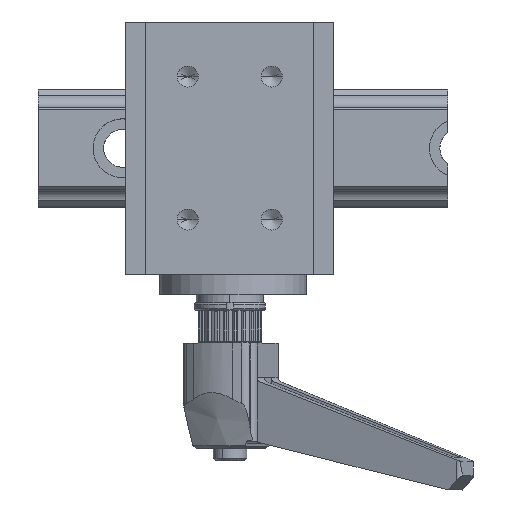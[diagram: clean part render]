
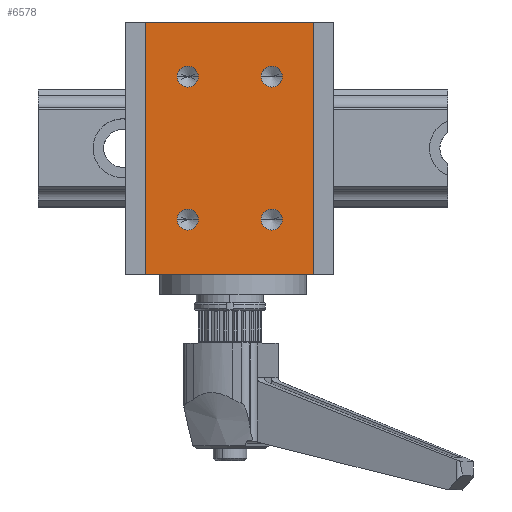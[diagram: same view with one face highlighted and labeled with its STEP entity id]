
A CAD part, top view. The second image highlights one B-rep face of the part: STEP entity #6578.
In plain terms, the highlighted planar face has unit normal (0, 0, 1) as drawn and (0, 1, 0) by its records, which use the part's own axes.
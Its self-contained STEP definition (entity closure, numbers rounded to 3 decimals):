
#25 = FACE_BOUND ( 'NONE', #4048, .T. ) ;
#52 = ORIENTED_EDGE ( 'NONE', *, *, #1226, .F. ) ;
#85 = AXIS2_PLACEMENT_3D ( 'NONE', #9742, #7509, #2824 ) ;
#144 = EDGE_CURVE ( 'NONE', #1429, #9747, #8962, .T. ) ;
#180 = EDGE_CURVE ( 'NONE', #5437, #8937, #9557, .T. ) ;
#307 = AXIS2_PLACEMENT_3D ( 'NONE', #6190, #2407, #6236 ) ;
#381 = CARTESIAN_POINT ( 'NONE',  ( 30., 0., -20. ) ) ;
#418 = CARTESIAN_POINT ( 'NONE',  ( -30., 0., -20. ) ) ;
#566 = CARTESIAN_POINT ( 'NONE',  ( -17., 0., -10. ) ) ;
#843 = FACE_BOUND ( 'NONE', #1031, .T. ) ;
#889 = EDGE_CURVE ( 'NONE', #5147, #4660, #6104, .T. ) ;
#929 = AXIS2_PLACEMENT_3D ( 'NONE', #5813, #5015, #5865 ) ;
#981 = ORIENTED_EDGE ( 'NONE', *, *, #2449, .F. ) ;
#1031 = EDGE_LOOP ( 'NONE', ( #4712, #7693 ) ) ;
#1226 = EDGE_CURVE ( 'NONE', #5450, #9669, #9828, .T. ) ;
#1429 = VERTEX_POINT ( 'NONE', #9934 ) ;
#1445 = ORIENTED_EDGE ( 'NONE', *, *, #1643, .F. ) ;
#1562 = DIRECTION ( 'NONE',  ( 0., 1., 0. ) ) ;
#1590 = CARTESIAN_POINT ( 'NONE',  ( -30., 0., 20. ) ) ;
#1643 = EDGE_CURVE ( 'NONE', #9669, #5450, #3037, .T. ) ;
#1956 = CIRCLE ( 'NONE', #3268, 2.5 ) ;
#2090 = CARTESIAN_POINT ( 'NONE',  ( -17., 0., 10. ) ) ;
#2304 = EDGE_LOOP ( 'NONE', ( #981, #6085 ) ) ;
#2305 = PLANE ( 'NONE',  #5095 ) ;
#2407 = DIRECTION ( 'NONE',  ( 0., 1., 0. ) ) ;
#2449 = EDGE_CURVE ( 'NONE', #8498, #7726, #1956, .T. ) ;
#2456 = DIRECTION ( 'NONE',  ( 0., 0., -1. ) ) ;
#2621 = LINE ( 'NONE', #5696, #5410 ) ;
#2637 = DIRECTION ( 'NONE',  ( 0., 0., -1. ) ) ;
#2658 = LINE ( 'NONE', #418, #6391 ) ;
#2824 = DIRECTION ( 'NONE',  ( 0., 0., 1. ) ) ;
#3037 = CIRCLE ( 'NONE', #929, 2.5 ) ;
#3149 = EDGE_LOOP ( 'NONE', ( #3972, #7245 ) ) ;
#3268 = AXIS2_PLACEMENT_3D ( 'NONE', #5691, #5788, #4987 ) ;
#3371 = CARTESIAN_POINT ( 'NONE',  ( 30., 0., 20. ) ) ;
#3414 = CARTESIAN_POINT ( 'NONE',  ( -17., 0., 12.5 ) ) ;
#3441 = ORIENTED_EDGE ( 'NONE', *, *, #180, .T. ) ;
#3494 = AXIS2_PLACEMENT_3D ( 'NONE', #566, #6724, #5924 ) ;
#3649 = AXIS2_PLACEMENT_3D ( 'NONE', #4249, #4811, #9400 ) ;
#3759 = VERTEX_POINT ( 'NONE', #9020 ) ;
#3829 = DIRECTION ( 'NONE',  ( 0., -1., 0. ) ) ;
#3930 = FACE_OUTER_BOUND ( 'NONE', #7648, .T. ) ;
#3935 = AXIS2_PLACEMENT_3D ( 'NONE', #6811, #1562, #5457 ) ;
#3972 = ORIENTED_EDGE ( 'NONE', *, *, #4288, .F. ) ;
#4048 = EDGE_LOOP ( 'NONE', ( #52, #1445 ) ) ;
#4116 = VECTOR ( 'NONE', #2637, 1000. ) ;
#4141 = DIRECTION ( 'NONE',  ( 0., 0., -1. ) ) ;
#4172 = EDGE_CURVE ( 'NONE', #8937, #3759, #2658, .T. ) ;
#4249 = CARTESIAN_POINT ( 'NONE',  ( -17., 0., -10. ) ) ;
#4288 = EDGE_CURVE ( 'NONE', #9747, #1429, #7850, .T. ) ;
#4660 = VERTEX_POINT ( 'NONE', #8884 ) ;
#4665 = AXIS2_PLACEMENT_3D ( 'NONE', #2090, #8907, #5174 ) ;
#4712 = ORIENTED_EDGE ( 'NONE', *, *, #4857, .F. ) ;
#4811 = DIRECTION ( 'NONE',  ( 0., 1., 0. ) ) ;
#4857 = EDGE_CURVE ( 'NONE', #4660, #5147, #7498, .T. ) ;
#4862 = CARTESIAN_POINT ( 'NONE',  ( 30., 0., 20. ) ) ;
#4898 = ORIENTED_EDGE ( 'NONE', *, *, #4172, .T. ) ;
#4900 = CIRCLE ( 'NONE', #3935, 2.5 ) ;
#4987 = DIRECTION ( 'NONE',  ( 0., 0., 1. ) ) ;
#5015 = DIRECTION ( 'NONE',  ( 0., 1., 0. ) ) ;
#5045 = CARTESIAN_POINT ( 'NONE',  ( -17., 0., -7.5 ) ) ;
#5095 = AXIS2_PLACEMENT_3D ( 'NONE', #7760, #3829, #2456 ) ;
#5102 = EDGE_CURVE ( 'NONE', #6166, #3759, #2621, .T. ) ;
#5147 = VERTEX_POINT ( 'NONE', #7916 ) ;
#5174 = DIRECTION ( 'NONE',  ( 0., 0., 1. ) ) ;
#5389 = FACE_BOUND ( 'NONE', #3149, .T. ) ;
#5410 = VECTOR ( 'NONE', #4141, 1000. ) ;
#5437 = VERTEX_POINT ( 'NONE', #3371 ) ;
#5450 = VERTEX_POINT ( 'NONE', #3414 ) ;
#5457 = DIRECTION ( 'NONE',  ( 0., 0., 1. ) ) ;
#5525 = DIRECTION ( 'NONE',  ( -1., 0., 0. ) ) ;
#5691 = CARTESIAN_POINT ( 'NONE',  ( 17., 0., 10. ) ) ;
#5696 = CARTESIAN_POINT ( 'NONE',  ( -30., 0., 20. ) ) ;
#5788 = DIRECTION ( 'NONE',  ( 0., 1., 0. ) ) ;
#5813 = CARTESIAN_POINT ( 'NONE',  ( -17., 0., 10. ) ) ;
#5865 = DIRECTION ( 'NONE',  ( 0., 0., 1. ) ) ;
#5924 = DIRECTION ( 'NONE',  ( 0., 0., 1. ) ) ;
#6085 = ORIENTED_EDGE ( 'NONE', *, *, #7837, .F. ) ;
#6104 = CIRCLE ( 'NONE', #307, 2.5 ) ;
#6166 = VERTEX_POINT ( 'NONE', #8538 ) ;
#6187 = VECTOR ( 'NONE', #5525, 1000. ) ;
#6190 = CARTESIAN_POINT ( 'NONE',  ( 17., 0., -10. ) ) ;
#6236 = DIRECTION ( 'NONE',  ( 0., 0., 1. ) ) ;
#6391 = VECTOR ( 'NONE', #6673, 1000. ) ;
#6578 = ADVANCED_FACE ( 'NONE', ( #25, #6998, #843, #5389, #3930 ), #2305, .F. ) ;
#6673 = DIRECTION ( 'NONE',  ( -1., 0., 0. ) ) ;
#6724 = DIRECTION ( 'NONE',  ( 0., 1., 0. ) ) ;
#6811 = CARTESIAN_POINT ( 'NONE',  ( 17., 0., 10. ) ) ;
#6966 = EDGE_CURVE ( 'NONE', #5437, #6166, #9263, .T. ) ;
#6998 = FACE_BOUND ( 'NONE', #2304, .T. ) ;
#7245 = ORIENTED_EDGE ( 'NONE', *, *, #144, .F. ) ;
#7498 = CIRCLE ( 'NONE', #85, 2.5 ) ;
#7509 = DIRECTION ( 'NONE',  ( 0., 1., 0. ) ) ;
#7522 = CARTESIAN_POINT ( 'NONE',  ( 17., 0., 12.5 ) ) ;
#7648 = EDGE_LOOP ( 'NONE', ( #4898, #8094, #9559, #3441 ) ) ;
#7693 = ORIENTED_EDGE ( 'NONE', *, *, #889, .F. ) ;
#7726 = VERTEX_POINT ( 'NONE', #9808 ) ;
#7760 = CARTESIAN_POINT ( 'NONE',  ( -30., 0., 20. ) ) ;
#7837 = EDGE_CURVE ( 'NONE', #7726, #8498, #4900, .T. ) ;
#7850 = CIRCLE ( 'NONE', #3494, 2.5 ) ;
#7916 = CARTESIAN_POINT ( 'NONE',  ( 17., 0., -12.5 ) ) ;
#8094 = ORIENTED_EDGE ( 'NONE', *, *, #5102, .F. ) ;
#8498 = VERTEX_POINT ( 'NONE', #7522 ) ;
#8538 = CARTESIAN_POINT ( 'NONE',  ( -30., 0., 20. ) ) ;
#8788 = CARTESIAN_POINT ( 'NONE',  ( -17., 0., 7.5 ) ) ;
#8884 = CARTESIAN_POINT ( 'NONE',  ( 17., 0., -7.5 ) ) ;
#8907 = DIRECTION ( 'NONE',  ( 0., 1., 0. ) ) ;
#8937 = VERTEX_POINT ( 'NONE', #381 ) ;
#8962 = CIRCLE ( 'NONE', #3649, 2.5 ) ;
#9020 = CARTESIAN_POINT ( 'NONE',  ( -30., 0., -20. ) ) ;
#9263 = LINE ( 'NONE', #1590, #6187 ) ;
#9400 = DIRECTION ( 'NONE',  ( 0., 0., 1. ) ) ;
#9557 = LINE ( 'NONE', #4862, #4116 ) ;
#9559 = ORIENTED_EDGE ( 'NONE', *, *, #6966, .F. ) ;
#9669 = VERTEX_POINT ( 'NONE', #8788 ) ;
#9742 = CARTESIAN_POINT ( 'NONE',  ( 17., 0., -10. ) ) ;
#9747 = VERTEX_POINT ( 'NONE', #5045 ) ;
#9808 = CARTESIAN_POINT ( 'NONE',  ( 17., 0., 7.5 ) ) ;
#9828 = CIRCLE ( 'NONE', #4665, 2.5 ) ;
#9934 = CARTESIAN_POINT ( 'NONE',  ( -17., 0., -12.5 ) ) ;
